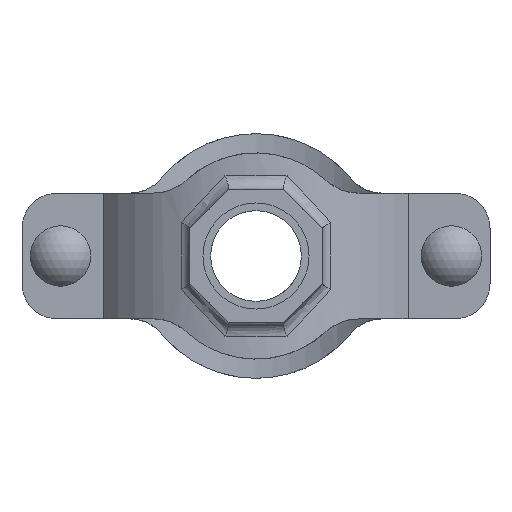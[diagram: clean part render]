
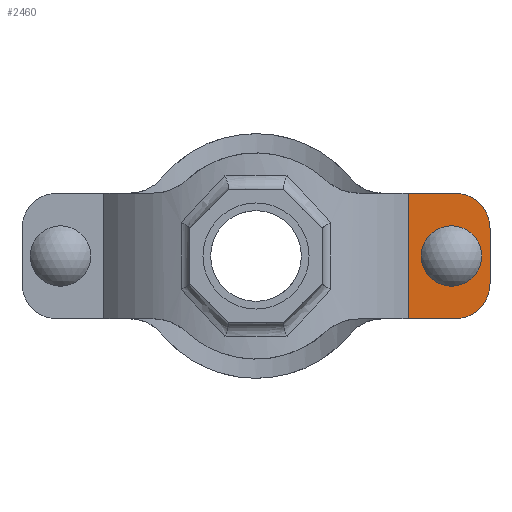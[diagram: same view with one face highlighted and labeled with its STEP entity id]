
A CAD part, front view. The second image highlights one B-rep face of the part: STEP entity #2460.
In plain terms, the highlighted planar face has unit normal (0, -1, 0) as drawn and (0, 1, 0) by its records, which use the part's own axes.
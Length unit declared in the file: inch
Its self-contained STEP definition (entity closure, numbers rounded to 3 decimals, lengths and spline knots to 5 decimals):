
#179=FACE_BOUND('',#445,.T.);
#296=FACE_OUTER_BOUND('',#444,.T.);
#444=EDGE_LOOP('',(#2079,#2080,#2081,#2082,#2083,#2084));
#445=EDGE_LOOP('',(#2085,#2086,#2087,#2088));
#585=LINE('',#4683,#767);
#596=LINE('',#4761,#778);
#600=LINE('',#4772,#782);
#628=LINE('',#5000,#810);
#629=LINE('',#5002,#811);
#630=LINE('',#5006,#812);
#767=VECTOR('',#3203,0.3937);
#778=VECTOR('',#3240,0.3937);
#782=VECTOR('',#3252,0.3937);
#810=VECTOR('',#3336,0.3937);
#811=VECTOR('',#3337,0.3937);
#812=VECTOR('',#3340,0.3937);
#886=CIRCLE('',#2704,0.343);
#888=CIRCLE('',#2708,0.343);
#901=CIRCLE('',#2739,0.63);
#902=CIRCLE('',#2740,0.63);
#1077=VERTEX_POINT('',#4680);
#1078=VERTEX_POINT('',#4682);
#1090=VERTEX_POINT('',#4751);
#1091=VERTEX_POINT('',#4752);
#1094=VERTEX_POINT('',#4760);
#1096=VERTEX_POINT('',#4766);
#1127=VERTEX_POINT('',#4999);
#1128=VERTEX_POINT('',#5001);
#1129=VERTEX_POINT('',#5003);
#1130=VERTEX_POINT('',#5005);
#1381=EDGE_CURVE('',#1078,#1077,#585,.T.);
#1398=EDGE_CURVE('',#1090,#1091,#886,.T.);
#1402=EDGE_CURVE('',#1091,#1094,#596,.T.);
#1405=EDGE_CURVE('',#1094,#1096,#888,.T.);
#1408=EDGE_CURVE('',#1096,#1090,#600,.T.);
#1454=EDGE_CURVE('',#1078,#1127,#628,.T.);
#1455=EDGE_CURVE('',#1128,#1077,#629,.T.);
#1456=EDGE_CURVE('',#1129,#1128,#901,.T.);
#1457=EDGE_CURVE('',#1130,#1129,#630,.T.);
#1458=EDGE_CURVE('',#1127,#1130,#902,.T.);
#2079=ORIENTED_EDGE('',*,*,#1454,.F.);
#2080=ORIENTED_EDGE('',*,*,#1381,.T.);
#2081=ORIENTED_EDGE('',*,*,#1455,.F.);
#2082=ORIENTED_EDGE('',*,*,#1456,.F.);
#2083=ORIENTED_EDGE('',*,*,#1457,.F.);
#2084=ORIENTED_EDGE('',*,*,#1458,.F.);
#2085=ORIENTED_EDGE('',*,*,#1405,.T.);
#2086=ORIENTED_EDGE('',*,*,#1408,.T.);
#2087=ORIENTED_EDGE('',*,*,#1398,.T.);
#2088=ORIENTED_EDGE('',*,*,#1402,.T.);
#2209=PLANE('',#2738);
#2460=ADVANCED_FACE('',(#296,#179),#2209,.F.);
#2704=AXIS2_PLACEMENT_3D('',#4753,#3232,#3233);
#2708=AXIS2_PLACEMENT_3D('',#4767,#3245,#3246);
#2738=AXIS2_PLACEMENT_3D('',#4998,#3334,#3335);
#2739=AXIS2_PLACEMENT_3D('',#5004,#3338,#3339);
#2740=AXIS2_PLACEMENT_3D('',#5007,#3341,#3342);
#3203=DIRECTION('',(0.,0.,-1.));
#3232=DIRECTION('center_axis',(0.,-1.,0.));
#3233=DIRECTION('ref_axis',(1.,0.,0.));
#3240=DIRECTION('',(0.,0.,1.));
#3245=DIRECTION('center_axis',(0.,-1.,0.));
#3246=DIRECTION('ref_axis',(-1.,0.,0.));
#3252=DIRECTION('',(0.,0.,-1.));
#3334=DIRECTION('center_axis',(0.,-1.,0.));
#3335=DIRECTION('ref_axis',(1.,0.,0.));
#3336=DIRECTION('',(-1.,0.,0.));
#3337=DIRECTION('',(1.,0.,0.));
#3338=DIRECTION('center_axis',(0.,-1.,0.));
#3339=DIRECTION('ref_axis',(0.,0.,-1.));
#3340=DIRECTION('',(0.,0.,-1.));
#3341=DIRECTION('center_axis',(0.,-1.,0.));
#3342=DIRECTION('ref_axis',(-1.,0.,0.));
#4680=CARTESIAN_POINT('',(-2.72478,2.,-1.125));
#4682=CARTESIAN_POINT('',(-2.72478,2.,1.125));
#4683=CARTESIAN_POINT('',(-2.72478,2.,0.));
#4751=CARTESIAN_POINT('',(-3.843,2.,-0.0945));
#4752=CARTESIAN_POINT('',(-3.157,2.,-0.0945));
#4753=CARTESIAN_POINT('Origin',(-3.5,2.,-0.0945));
#4760=CARTESIAN_POINT('',(-3.157,2.,0.0945));
#4761=CARTESIAN_POINT('',(-3.157,2.,0.04725));
#4766=CARTESIAN_POINT('',(-3.843,2.,0.0945));
#4767=CARTESIAN_POINT('Origin',(-3.5,2.,0.0945));
#4772=CARTESIAN_POINT('',(-3.843,2.,-0.04725));
#4998=CARTESIAN_POINT('Origin',(-4.19,2.,0.));
#4999=CARTESIAN_POINT('',(-3.56,2.,1.125));
#5000=CARTESIAN_POINT('',(-3.875,2.,1.125));
#5001=CARTESIAN_POINT('',(-3.56,2.,-1.125));
#5002=CARTESIAN_POINT('',(-3.01771,2.,-1.125));
#5003=CARTESIAN_POINT('',(-4.19,2.,-0.495));
#5004=CARTESIAN_POINT('Origin',(-3.56,2.,-0.495));
#5005=CARTESIAN_POINT('',(-4.19,2.,0.495));
#5006=CARTESIAN_POINT('',(-4.19,2.,-0.2475));
#5007=CARTESIAN_POINT('Origin',(-3.56,2.,0.495));
